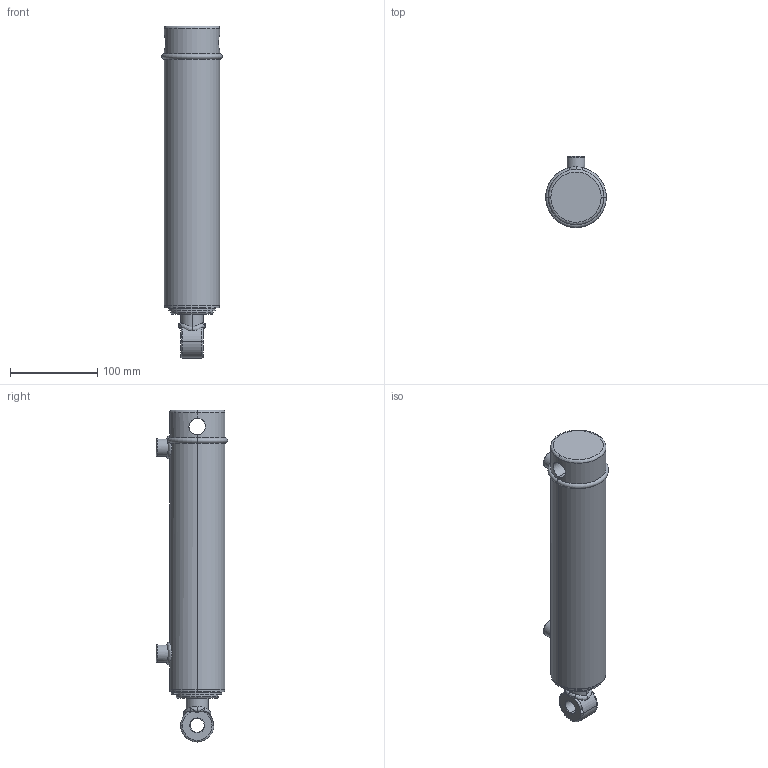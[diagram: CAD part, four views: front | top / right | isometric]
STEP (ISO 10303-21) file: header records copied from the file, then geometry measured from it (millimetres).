
FILE_DESCRIPTION (( 'STEP AP203' ), '1' );
FILE_NAME ('SB-C200100X203 (8).STEP', '2014-12-01T23:40:01', ( '' ), ( '' ), 'SwSTEP 2.0', 'SolidWorks 2014', '' );
FILE_SCHEMA (( 'CONFIG_CONTROL_DESIGN' ));
Length unit declared in the file: millimetre
Products named in the file (5): SB-C200100X203 (8) BODY; 2 inch circlip; SB-C2 8 SPARE; SB-C200100X203 (8)
Assembly tree (4 placements, depth 3):
  SB-C200100X203 (8)
    SB-C200100X203 (8) BODY
    2 inch circlip
    SB-C2 8 SPARE
      SB-C2 8 SPARE
Bounding box: 69.5 x 81.5 x 380 mm (x, y, z)
Volume: 1069283.2 mm3; surface area: 130779.9 mm2
Topology: 3 solids, 3 shells, 130 faces, 324 edges, 203 vertices
Faces by surface type: cylinder 51, bspline 25, plane 25, torus 21, cone 8
Entity records: 9343 total; most frequent: CARTESIAN_POINT 5899, ORIENTED_EDGE 640, DIRECTION 595, EDGE_CURVE 320, AXIS2_PLACEMENT_3D 263, VERTEX_POINT 203, CIRCLE 150, EDGE_LOOP 149
